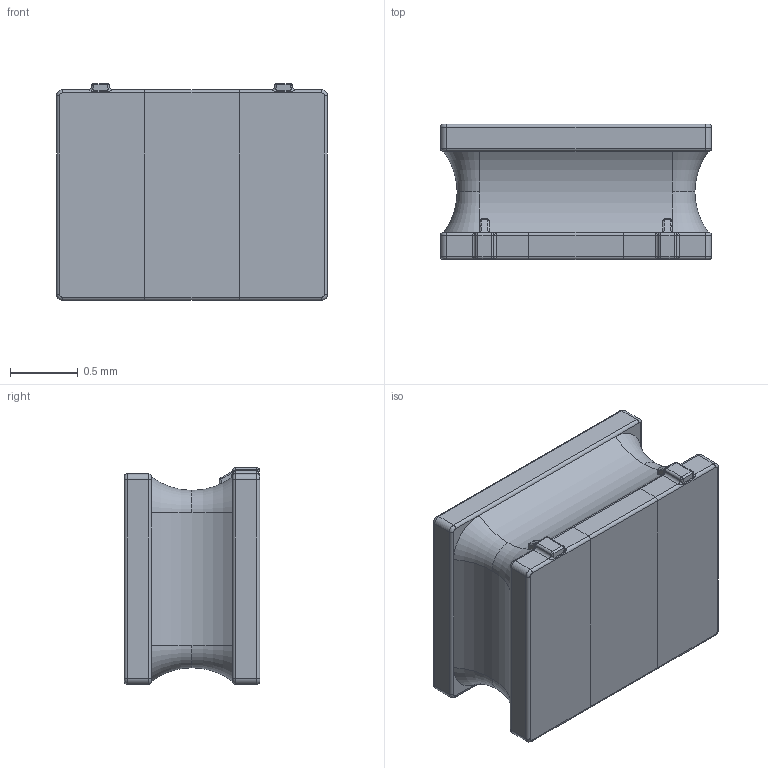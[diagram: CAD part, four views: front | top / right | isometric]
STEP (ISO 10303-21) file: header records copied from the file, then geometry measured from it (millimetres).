
FILE_DESCRIPTION (( 'STEP AP214' ), '1' );
FILE_NAME ('201610series.STEP', '2026-07-23T10:02:16', ( '' ), ( '' ), 'SwSTEP 2.0', 'SolidWorks 2025', '' );
FILE_SCHEMA (( 'AUTOMOTIVE_DESIGN' ));
Length unit declared in the file: millimetre
Products named in the file (1): 201610series
Bounding box: 2 x 1 x 1.6 mm (x, y, z)
Volume: 2.7 mm3; surface area: 18.4 mm2
Topology: 5 solids, 5 shells, 214 faces, 490 edges, 282 vertices
Faces by surface type: cylinder 86, plane 64, torus 44, bspline 20
Entity records: 8967 total; most frequent: CARTESIAN_POINT 1805, DIRECTION 1038, ORIENTED_EDGE 972, EDGE_CURVE 486, AXIS2_PLACEMENT_3D 409, VERTEX_POINT 282, LINE 220, VECTOR 220
